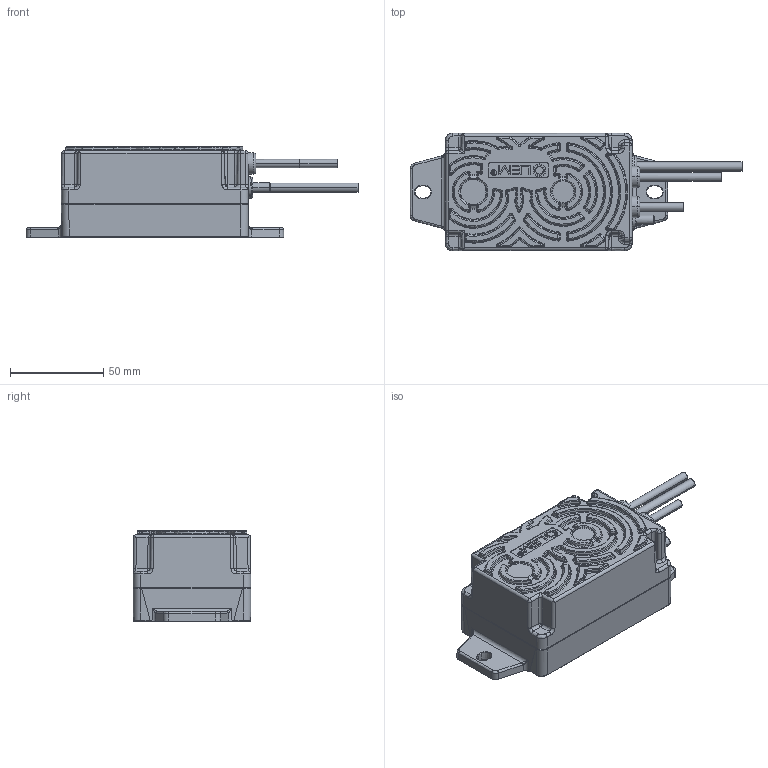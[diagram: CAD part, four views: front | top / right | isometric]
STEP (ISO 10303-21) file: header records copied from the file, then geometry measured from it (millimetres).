
FILE_DESCRIPTION(('CoCreate Modeling STEP Export'),'2;1');
FILE_NAME('DVL 1000_SP7.stp','2013-01-18T15:00:26',(''),(''),'CoCreate Modeling STEP processor for AP214 (Solid Model)','CoCreate Modeling 17.0B 09-Oct-2010 (C) Parametric Technology GmbH','');
FILE_SCHEMA(('AUTOMOTIVE_DESIGN { 1 0 10303 214 1 1 1 1 }'));
Products named in the file (1): BLACKBOX_DVL_ENCOMB_TYPE_B
Bounding box: 177.57 x 63.01 x 48.3 mm (x, y, z)
Volume: 294470.3 mm3; surface area: 37155.6 mm2
Topology: 1 solids, 7 shells, 1893 faces, 4619 edges, 2767 vertices
Faces by surface type: bspline 832, plane 530, cylinder 245, torus 157, cone 92, sphere 25, extrusion 12
Entity records: 116479 total; most frequent: CARTESIAN_POINT 80085, ORIENTED_EDGE 9162, EDGE_CURVE 4578, DIRECTION 4464, VERTEX_POINT 2767, EDGE_LOOP 1965, FACE_OUTER_BOUND 1893, ADVANCED_FACE 1893
